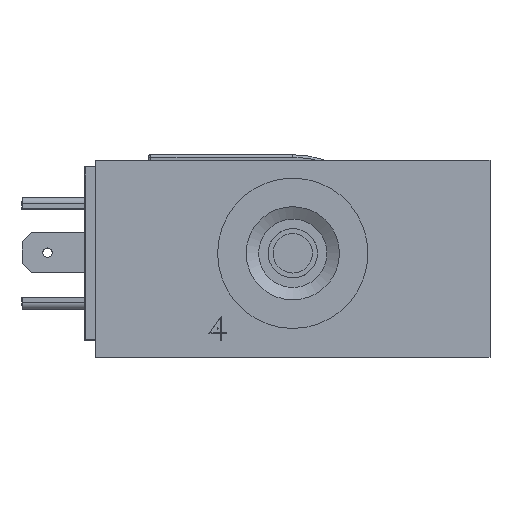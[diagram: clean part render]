
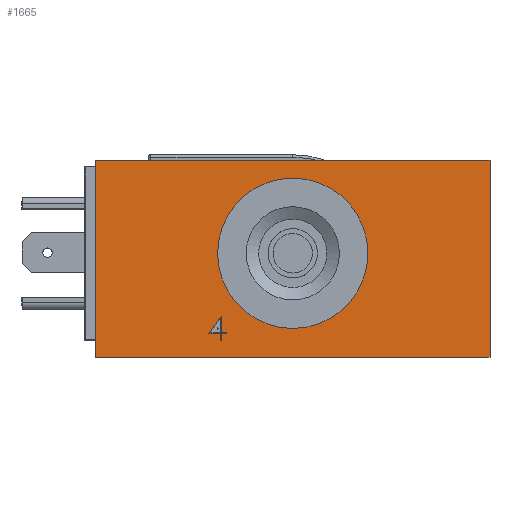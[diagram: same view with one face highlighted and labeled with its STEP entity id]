
A CAD part, left-side view. The second image highlights one B-rep face of the part: STEP entity #1665.
In plain terms, the highlighted planar face has unit normal (-1, 0, 0).
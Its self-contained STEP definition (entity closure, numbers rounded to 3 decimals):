
#1665 = ADVANCED_FACE( '', ( #3329, #3330, #3331 ), #3332, .T. );
#3329 = FACE_BOUND( '', #5156, .T. );
#3330 = FACE_OUTER_BOUND( '', #5157, .T. );
#3331 = FACE_BOUND( '', #5158, .T. );
#3332 = PLANE( '', #5159 );
#5156 = EDGE_LOOP( '', ( #8479 ) );
#5157 = EDGE_LOOP( '', ( #8480, #8481, #8482, #8483 ) );
#5158 = EDGE_LOOP( '', ( #8484, #8485, #8486, #8487, #8488, #8489, #8490, #8491, #8492 ) );
#5159 = AXIS2_PLACEMENT_3D( '', #8493, #8494, #8495 );
#8479 = ORIENTED_EDGE( '', *, *, #9782, .T. );
#8480 = ORIENTED_EDGE( '', *, *, #10549, .F. );
#8481 = ORIENTED_EDGE( '', *, *, #10359, .F. );
#8482 = ORIENTED_EDGE( '', *, *, #10200, .T. );
#8483 = ORIENTED_EDGE( '', *, *, #10117, .T. );
#8484 = ORIENTED_EDGE( '', *, *, #9874, .T. );
#8485 = ORIENTED_EDGE( '', *, *, #10335, .T. );
#8486 = ORIENTED_EDGE( '', *, *, #10007, .T. );
#8487 = ORIENTED_EDGE( '', *, *, #10550, .T. );
#8488 = ORIENTED_EDGE( '', *, *, #9515, .T. );
#8489 = ORIENTED_EDGE( '', *, *, #10076, .T. );
#8490 = ORIENTED_EDGE( '', *, *, #9728, .T. );
#8491 = ORIENTED_EDGE( '', *, *, #10468, .T. );
#8492 = ORIENTED_EDGE( '', *, *, #10551, .T. );
#8493 = CARTESIAN_POINT( '', ( -41., -31.75, 31.75 ) );
#8494 = DIRECTION( '', ( -1., 0., 0. ) );
#8495 = DIRECTION( '', ( 0., -1., 0. ) );
#9515 = EDGE_CURVE( '', #11806, #11807, #11808, .T. );
#9728 = EDGE_CURVE( '', #12169, #12170, #12171, .T. );
#9782 = EDGE_CURVE( '', #12257, #12257, #12258, .T. );
#9874 = EDGE_CURVE( '', #12399, #12400, #12401, .T. );
#10007 = EDGE_CURVE( '', #12598, #12599, #12600, .T. );
#10076 = EDGE_CURVE( '', #11807, #12169, #12707, .T. );
#10117 = EDGE_CURVE( '', #12768, #12766, #12769, .T. );
#10200 = EDGE_CURVE( '', #12889, #12768, #12890, .T. );
#10335 = EDGE_CURVE( '', #12400, #12598, #13078, .T. );
#10359 = EDGE_CURVE( '', #12889, #13109, #13111, .T. );
#10468 = EDGE_CURVE( '', #12170, #13245, #13246, .T. );
#10549 = EDGE_CURVE( '', #13109, #12766, #13343, .T. );
#10550 = EDGE_CURVE( '', #12599, #11806, #13344, .T. );
#10551 = EDGE_CURVE( '', #13245, #12399, #13345, .T. );
#11806 = VERTEX_POINT( '', #14343 );
#11807 = VERTEX_POINT( '', #14344 );
#11808 = B_SPLINE_CURVE_WITH_KNOTS( '', 1, ( #14345, #14346 ), .UNSPECIFIED., .F., .F., ( 2, 2 ), ( 0.172, 0.178 ), .UNSPECIFIED. );
#12169 = VERTEX_POINT( '', #15266 );
#12170 = VERTEX_POINT( '', #15267 );
#12171 = B_SPLINE_CURVE_WITH_KNOTS( '', 1, ( #15268, #15269 ), .UNSPECIFIED., .F., .F., ( 2, 2 ), ( 0.28, 0.433 ), .UNSPECIFIED. );
#12257 = VERTEX_POINT( '', #15454 );
#12258 = CIRCLE( '', #15455, 12.1 );
#12399 = VERTEX_POINT( '', #15901 );
#12400 = VERTEX_POINT( '', #15902 );
#12401 = B_SPLINE_CURVE_WITH_KNOTS( '', 1, ( #15903, #15904 ), .UNSPECIFIED., .F., .F., ( 2, 2 ), ( 0.924, 0.994 ), .UNSPECIFIED. );
#12598 = VERTEX_POINT( '', #16519 );
#12599 = VERTEX_POINT( '', #16520 );
#12600 = B_SPLINE_CURVE_WITH_KNOTS( '', 1, ( #16521, #16522 ), .UNSPECIFIED., .F., .F., ( 2, 2 ), ( 0., 0.07 ), .UNSPECIFIED. );
#12707 = B_SPLINE_CURVE_WITH_KNOTS( '', 1, ( #16665, #16666 ), .UNSPECIFIED., .F., .F., ( 2, 2 ), ( 0.178, 0.28 ), .UNSPECIFIED. );
#12766 = VERTEX_POINT( '', #16894 );
#12768 = VERTEX_POINT( '', #16897 );
#12769 = LINE( '', #16898, #16899 );
#12889 = VERTEX_POINT( '', #17138 );
#12890 = LINE( '', #17139, #17140 );
#13078 = B_SPLINE_CURVE_WITH_KNOTS( '', 1, ( #17739, #17740 ), .UNSPECIFIED., .F., .F., ( 2, 2 ), ( 0.994, 1. ), .UNSPECIFIED. );
#13109 = VERTEX_POINT( '', #17777 );
#13111 = LINE( '', #17780, #17781 );
#13245 = VERTEX_POINT( '', #18032 );
#13246 = B_SPLINE_CURVE_WITH_KNOTS( '', 1, ( #18033, #18034 ), .UNSPECIFIED., .F., .F., ( 2, 2 ), ( 0.433, 0.707 ), .UNSPECIFIED. );
#13343 = LINE( '', #18298, #18299 );
#13344 = B_SPLINE_CURVE_WITH_KNOTS( '', 1, ( #18300, #18301 ), .UNSPECIFIED., .F., .F., ( 2, 2 ), ( 0.07, 0.172 ), .UNSPECIFIED. );
#13345 = B_SPLINE_CURVE_WITH_KNOTS( '', 1, ( #18302, #18303 ), .UNSPECIFIED., .F., .F., ( 2, 2 ), ( 0.707, 0.924 ), .UNSPECIFIED. );
#14343 = CARTESIAN_POINT( '', ( -41., 11.553, 2.65 ) );
#14344 = CARTESIAN_POINT( '', ( -41., 11.633, 2.65 ) );
#14345 = CARTESIAN_POINT( '', ( -41., 11.553, 2.65 ) );
#14346 = CARTESIAN_POINT( '', ( -41., 11.633, 2.65 ) );
#15266 = CARTESIAN_POINT( '', ( -41., 11.633, 3.904 ) );
#15267 = CARTESIAN_POINT( '', ( -41., 13.502, 3.904 ) );
#15268 = CARTESIAN_POINT( '', ( -41., 11.633, 3.904 ) );
#15269 = CARTESIAN_POINT( '', ( -41., 13.502, 3.904 ) );
#15454 = CARTESIAN_POINT( '', ( -41., -12.1, 16.75 ) );
#15455 = AXIS2_PLACEMENT_3D( '', #19345, #19346, #19347 );
#15901 = CARTESIAN_POINT( '', ( -41., 11.553, 3.983 ) );
#15902 = CARTESIAN_POINT( '', ( -41., 10.698, 3.983 ) );
#15903 = CARTESIAN_POINT( '', ( -41., 11.553, 3.983 ) );
#15904 = CARTESIAN_POINT( '', ( -41., 10.698, 3.983 ) );
#16519 = CARTESIAN_POINT( '', ( -41., 10.698, 3.904 ) );
#16520 = CARTESIAN_POINT( '', ( -41., 11.553, 3.904 ) );
#16521 = CARTESIAN_POINT( '', ( -41., 10.698, 3.904 ) );
#16522 = CARTESIAN_POINT( '', ( -41., 11.553, 3.904 ) );
#16665 = CARTESIAN_POINT( '', ( -41., 11.633, 2.65 ) );
#16666 = CARTESIAN_POINT( '', ( -41., 11.633, 3.904 ) );
#16894 = CARTESIAN_POINT( '', ( -41., 31.75, 0. ) );
#16897 = CARTESIAN_POINT( '', ( -41., 31.75, 31.75 ) );
#16898 = CARTESIAN_POINT( '', ( -41., 31.75, 31.75 ) );
#16899 = VECTOR( '', #19656, 1000. );
#17138 = CARTESIAN_POINT( '', ( -41., -31.75, 31.75 ) );
#17139 = CARTESIAN_POINT( '', ( -41., -31.75, 31.75 ) );
#17140 = VECTOR( '', #19744, 1000. );
#17739 = CARTESIAN_POINT( '', ( -41., 10.698, 3.983 ) );
#17740 = CARTESIAN_POINT( '', ( -41., 10.698, 3.904 ) );
#17777 = CARTESIAN_POINT( '', ( -41., -31.75, 0. ) );
#17780 = CARTESIAN_POINT( '', ( -41., -31.75, 31.75 ) );
#17781 = VECTOR( '', #19882, 1000. );
#18032 = CARTESIAN_POINT( '', ( -41., 11.553, 6.65 ) );
#18033 = CARTESIAN_POINT( '', ( -41., 13.502, 3.904 ) );
#18034 = CARTESIAN_POINT( '', ( -41., 11.553, 6.65 ) );
#18298 = CARTESIAN_POINT( '', ( -41., -31.75, 0. ) );
#18299 = VECTOR( '', #20007, 1000. );
#18300 = CARTESIAN_POINT( '', ( -41., 11.553, 3.904 ) );
#18301 = CARTESIAN_POINT( '', ( -41., 11.553, 2.65 ) );
#18302 = CARTESIAN_POINT( '', ( -41., 11.553, 6.65 ) );
#18303 = CARTESIAN_POINT( '', ( -41., 11.553, 3.983 ) );
#19345 = CARTESIAN_POINT( '', ( -41., 0., 16.75 ) );
#19346 = DIRECTION( '', ( 1., 0., 0. ) );
#19347 = DIRECTION( '', ( 0., -1., 0. ) );
#19656 = DIRECTION( '', ( 0., 0., -1. ) );
#19744 = DIRECTION( '', ( 0., 1., 0. ) );
#19882 = DIRECTION( '', ( 0., 0., -1. ) );
#20007 = DIRECTION( '', ( 0., 1., 0. ) );
